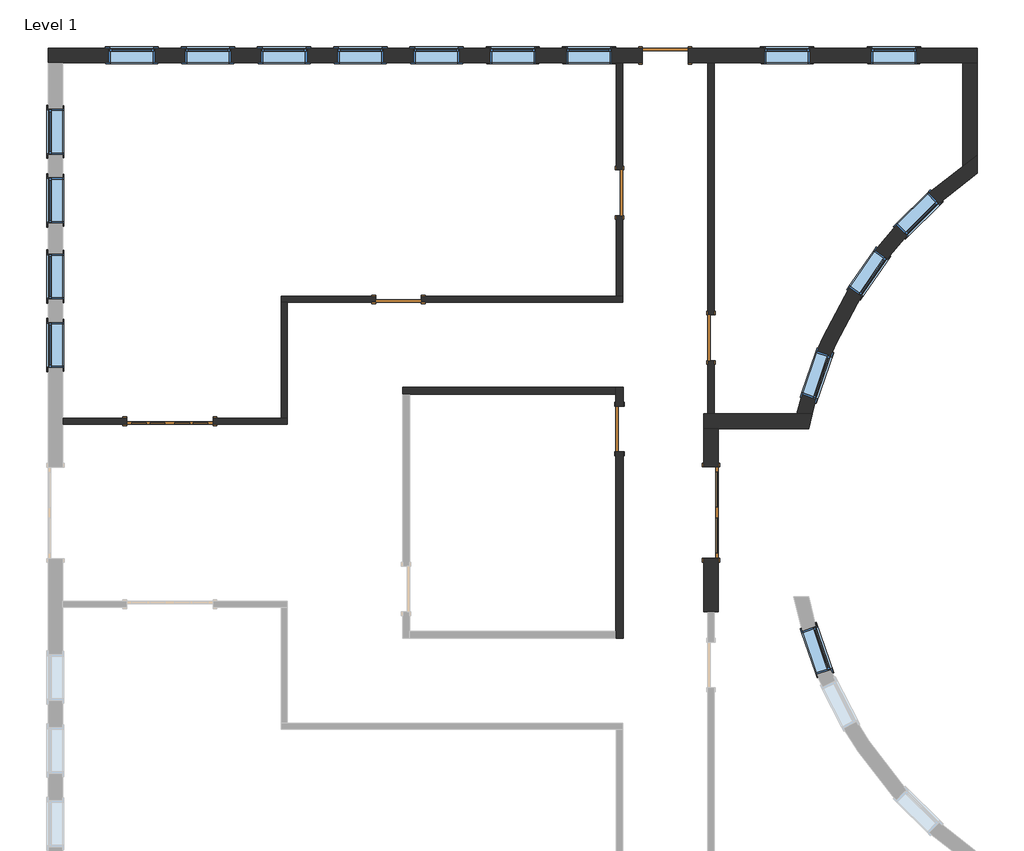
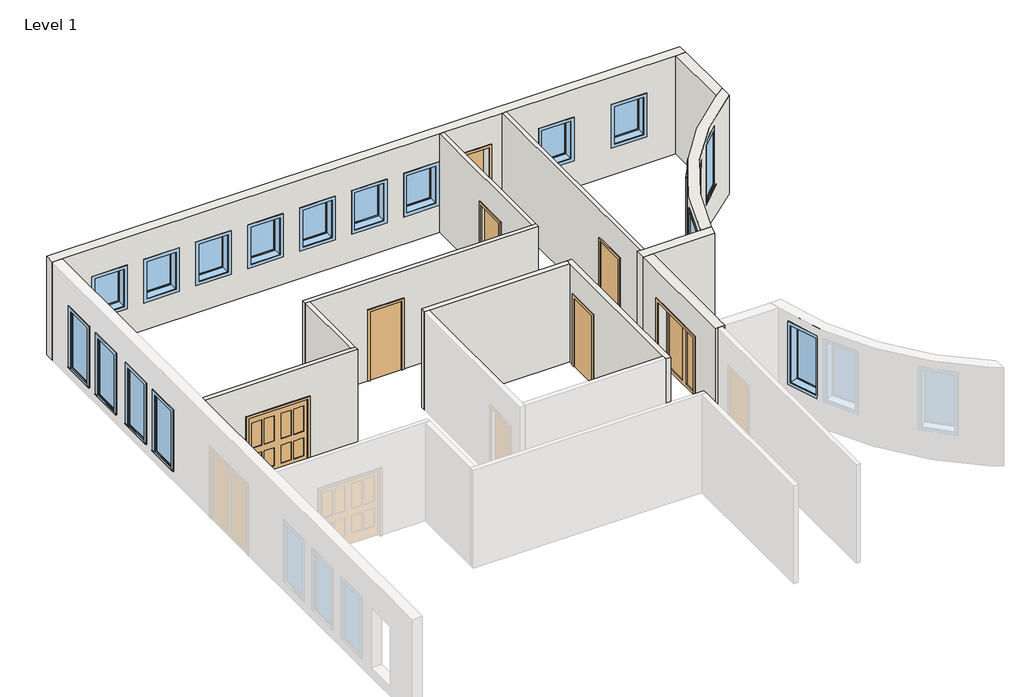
# One storey, part 2 of 2: 17 windows, 12 walls, 7 doors.
"""IFC4 building model written with IfcOpenShell, lengths in millimetres."""

from ifc_helpers import new_model, si_unit, point, frame, frame_2d, origin, origin_with_axes, place, context, project, spatial, polyline, circle_curve, trimmed, segment, composite_curve, outline, extrude, faceted_brep, transform, mapped, element, save
from ifc_brep_helpers import plane_surface, cylinder_surface, revolved_surface, advanced_brep
from components import door_e9d87526, door_c173eac2, door_617da642, door_88503111, door_3dff5d0e, fixed_6768491c, fixed_81e87f0c, fixed_94481ef7

model = new_model("IFC4")

# Units and contexts
model_context = context("Model", 3, world=origin())
ifc_project = project(units=[si_unit("LENGTHUNIT", "METRE", prefix="MILLI")], contexts=[model_context])

# Site, building, storey
site = spatial("IfcSite", under=ifc_project)
building = spatial("IfcBuilding", under=site)
storey = spatial("IfcBuildingStorey", under=building, Name="Level 1", Elevation=0.0)

# Doors
placement = place(None, origin())
door_shape = door_e9d87526(model_context)
element("IfcDoor", 1, ObjectType="Double-Glass 1 : 72\" x 84\"", at=placement, inside=storey, context=model_context, shape_type="MappedRepresentation", body=[
    mapped(door_shape, transform((2356.1311274, -430.8085073, 0.0), x_axis=(0.0, -1.0, 0.0), y_axis=(1.0, 0.0, 0.0), z_axis=(0.0, 0.0, 1.0))),
])
door_2_shape = door_c173eac2(model_context)
element("IfcDoor", 2, ObjectType="Double-Panel 2 : 68\" x 80\"", at=placement, inside=storey, context=model_context, shape_type="MappedRepresentation", body=[
    mapped(door_2_shape, transform((-8461.8876226, 1393.2289927, 0.0), x_axis=(-1.0, 0.0, 0.0), y_axis=(0.0, -1.0, 0.0), z_axis=(0.0, 0.0, 1.0))),
])
door_3_shape = door_617da642(model_context)
element("IfcDoor", 3, ObjectType="Sgl Flush : 36\" x 84\"", at=placement, inside=storey, context=model_context, shape_type="MappedRepresentation", body=[
    mapped(door_3_shape, transform((1444.1123774, 8708.4289927, 0.0), x_axis=(-1.0, 0.0, 0.0), y_axis=(0.0, -1.0, 0.0), z_axis=(0.0, 0.0, 1.0))),
])
door_4_shape = door_88503111(model_context)
element("IfcDoor", 4, ObjectType="Sgl Flush : 36\" x 84\"", at=placement, inside=storey, context=model_context, shape_type="MappedRepresentation", body=[
    mapped(door_4_shape, transform((-3889.8876226, 3831.6289927, 0.0), x_axis=(-1.0, 0.0, 0.0), y_axis=(0.0, -1.0, 0.0), z_axis=(0.0, 0.0, 1.0))),
])
element("IfcDoor", 5, ObjectType="Sgl Flush : 36\" x 84\"", at=placement, inside=storey, context=model_context, shape_type="MappedRepresentation", body=[
    mapped(door_4_shape, transform((529.7123774, 5965.2289927, 0.0), x_axis=(0.0, -1.0, 0.0), y_axis=(1.0, 0.0, 0.0), z_axis=(0.0, 0.0, 1.0))),
])
element("IfcDoor", 6, ObjectType="Sgl Flush : 36\" x 84\"", at=placement, inside=storey, context=model_context, shape_type="MappedRepresentation", body=[
    mapped(door_4_shape, transform((2358.5123774, 3064.8664927, 0.0), x_axis=(0.0, 1.0, 0.0), y_axis=(-1.0, 0.0, 0.0), z_axis=(0.0, 0.0, 1.0))),
])
door_5_shape = door_3dff5d0e(model_context)
element("IfcDoor", 7, ObjectType="Sgl Flush : 36\" x 84\"", at=placement, inside=storey, context=model_context, shape_type="MappedRepresentation", body=[
    mapped(door_5_shape, transform((529.7123774, 1240.8289927, 0.0), x_axis=(0.0, 1.0, 0.0), y_axis=(-1.0, 0.0, 0.0), z_axis=(0.0, 0.0, 1.0))),
])

# Walls
element("IfcWall", 8, ObjectType="Generic - 12\" Masonry", at=placement, inside=storey, context=model_context, shape_type="Brep", body=[
    faceted_brep([(-10895.5251226, 8560.7914927, 0.0), (-10600.2501226, 8560.7914927, 0.0), (467.7998774, 8560.7914927, 0.0), (591.6248774, 8560.7914927, 0.0), (986.9123774, 8560.7914927, 0.0), (986.9123774, 8560.7914927, 2133.6), (1901.3123774, 8560.7914927, 2133.6), (1901.3123774, 8560.7914927, 0.0), (2296.5998774, 8560.7914927, 0.0), (2420.4248774, 8560.7914927, 0.0), (7392.4748774, 8560.7914927, 0.0), (7687.7498774, 8560.7914927, 0.0), (7687.7498774, 8560.7914927, 3048.0), (7392.4748774, 8560.7914927, 3048.0), (2420.4248774, 8560.7914927, 3048.0), (2296.5998774, 8560.7914927, 3048.0), (591.6248774, 8560.7914927, 3048.0), (467.7998774, 8560.7914927, 3048.0), (-10600.2501226, 8560.7914927, 3048.0), (-10895.5251226, 8560.7914927, 3048.0), (-8766.6876226, 8560.7914927, 2133.6), (-8766.6876226, 8560.7914927, 914.4), (-9681.0876226, 8560.7914927, 914.4), (-9681.0876226, 8560.7914927, 2133.6), (-7242.6876226, 8560.7914927, 2133.6), (-7242.6876226, 8560.7914927, 914.4), (-8157.0876226, 8560.7914927, 914.4), (-8157.0876226, 8560.7914927, 2133.6), (-5718.6876226, 8560.7914927, 2133.6), (-5718.6876226, 8560.7914927, 914.4), (-6633.0876226, 8560.7914927, 914.4), (-6633.0876226, 8560.7914927, 2133.6), (-4194.6876226, 8560.7914927, 2133.6), (-4194.6876226, 8560.7914927, 914.4), (-5109.0876226, 8560.7914927, 914.4), (-5109.0876226, 8560.7914927, 2133.6), (-2670.6876226, 8560.7914927, 2133.6), (-2670.6876226, 8560.7914927, 914.4), (-3585.0876226, 8560.7914927, 914.4), (-3585.0876226, 8560.7914927, 2133.6), (-1146.6876226, 8560.7914927, 2133.6), (-1146.6876226, 8560.7914927, 914.4), (-2061.0876226, 8560.7914927, 914.4), (-2061.0876226, 8560.7914927, 2133.6), (377.3123774, 8560.7914927, 2133.6), (377.3123774, 8560.7914927, 914.4), (-537.0876226, 8560.7914927, 914.4), (-537.0876226, 8560.7914927, 2133.6), (4339.7123774, 8560.7914927, 2133.6), (4339.7123774, 8560.7914927, 914.4), (3425.3123774, 8560.7914927, 914.4), (3425.3123774, 8560.7914927, 2133.6), (6473.3123774, 8560.7914927, 2133.6), (6473.3123774, 8560.7914927, 914.4), (5558.9123774, 8560.7914927, 914.4), (5558.9123774, 8560.7914927, 2133.6), (986.9123774, 8856.0664927, 2133.6), (986.9123774, 8856.0664927, 0.0), (-10895.5251226, 8856.0664927, 0.0), (-10895.5251226, 8856.0664927, 3048.0), (7687.7498774, 8856.0664927, 3048.0), (7687.7498774, 8856.0664927, 0.0), (1901.3123774, 8856.0664927, 0.0), (1901.3123774, 8856.0664927, 2133.6), (-8766.6876226, 8856.0664927, 2133.6), (-9681.0876226, 8856.0664927, 2133.6), (-9681.0876226, 8856.0664927, 914.4), (-8766.6876226, 8856.0664927, 914.4), (-7242.6876226, 8856.0664927, 2133.6), (-8157.0876226, 8856.0664927, 2133.6), (-8157.0876226, 8856.0664927, 914.4), (-7242.6876226, 8856.0664927, 914.4), (-5718.6876226, 8856.0664927, 2133.6), (-6633.0876226, 8856.0664927, 2133.6), (-6633.0876226, 8856.0664927, 914.4), (-5718.6876226, 8856.0664927, 914.4), (-4194.6876226, 8856.0664927, 2133.6), (-5109.0876226, 8856.0664927, 2133.6), (-5109.0876226, 8856.0664927, 914.4), (-4194.6876226, 8856.0664927, 914.4), (-2670.6876226, 8856.0664927, 2133.6), (-3585.0876226, 8856.0664927, 2133.6), (-3585.0876226, 8856.0664927, 914.4), (-2670.6876226, 8856.0664927, 914.4), (-1146.6876226, 8856.0664927, 2133.6), (-2061.0876226, 8856.0664927, 2133.6), (-2061.0876226, 8856.0664927, 914.4), (-1146.6876226, 8856.0664927, 914.4), (377.3123774, 8856.0664927, 2133.6), (-537.0876226, 8856.0664927, 2133.6), (-537.0876226, 8856.0664927, 914.4), (377.3123774, 8856.0664927, 914.4), (4339.7123774, 8856.0664927, 2133.6), (3425.3123774, 8856.0664927, 2133.6), (3425.3123774, 8856.0664927, 914.4), (4339.7123774, 8856.0664927, 914.4), (6473.3123774, 8856.0664927, 2133.6), (5558.9123774, 8856.0664927, 2133.6), (5558.9123774, 8856.0664927, 914.4), (6473.3123774, 8856.0664927, 914.4)], [[[0, 1, 2, 3, 4, 5, 6, 7, 8, 9, 10, 11, 12, 13, 14, 15, 16, 17, 18, 19], [20, 21, 22, 23], [24, 25, 26, 27], [28, 29, 30, 31], [32, 33, 34, 35], [36, 37, 38, 39], [40, 41, 42, 43], [44, 45, 46, 47], [48, 49, 50, 51], [52, 53, 54, 55]], [[56, 57, 58, 59, 60, 61, 62, 63], [64, 65, 66, 67], [68, 69, 70, 71], [72, 73, 74, 75], [76, 77, 78, 79], [80, 81, 82, 83], [84, 85, 86, 87], [88, 89, 90, 91], [92, 93, 94, 95], [96, 97, 98, 99]], [[62, 61, 11, 10, 9, 8, 7]], [[58, 57, 4, 3, 2, 1, 0]], [[19, 18, 17, 16, 15, 14, 13, 12, 60, 59]], [[0, 19, 59, 58]], [[5, 4, 57, 56]], [[6, 5, 56, 63]], [[7, 6, 63, 62]], [[12, 11, 61, 60]], [[21, 20, 64, 67]], [[22, 21, 67, 66]], [[23, 22, 66, 65]], [[20, 23, 65, 64]], [[25, 24, 68, 71]], [[26, 25, 71, 70]], [[27, 26, 70, 69]], [[24, 27, 69, 68]], [[29, 28, 72, 75]], [[30, 29, 75, 74]], [[31, 30, 74, 73]], [[28, 31, 73, 72]], [[33, 32, 76, 79]], [[34, 33, 79, 78]], [[35, 34, 78, 77]], [[32, 35, 77, 76]], [[37, 36, 80, 83]], [[38, 37, 83, 82]], [[39, 38, 82, 81]], [[36, 39, 81, 80]], [[41, 40, 84, 87]], [[42, 41, 87, 86]], [[43, 42, 86, 85]], [[40, 43, 85, 84]], [[45, 44, 88, 91]], [[46, 45, 91, 90]], [[47, 46, 90, 89]], [[44, 47, 89, 88]], [[49, 48, 92, 95]], [[50, 49, 95, 94]], [[51, 50, 94, 93]], [[48, 51, 93, 92]], [[53, 52, 96, 99]], [[54, 53, 99, 98]], [[55, 54, 98, 97]], [[52, 55, 97, 96]]]),
])
element("IfcWall", 9, ObjectType="Generic - 12\" Masonry", at=placement, inside=storey, context=model_context, shape_type="AdvancedBrep", body=[
    advanced_brep(
    [(4380.4809086, 1540.8664927, 3048.0), (7687.7498774, 6354.9281942, 3048.0), (7687.7498774, 6711.7450927, 3048.0), (7392.479694, 6507.4464195, 3048.0), (4076.7189167, 1540.8664927, 3048.0), (4380.4809086, 1540.8664927, 0.0), (4076.7189167, 1540.8664927, 0.0), (7392.479694, 6507.4464195, 0.0), (7687.7498774, 6711.7450927, 0.0), (7687.7498774, 6354.9281942, 0.0), (6922.7409562, 5752.5897109, 2743.2), (6922.7409562, 5752.5897109, 914.4), (6273.4213207, 5108.7641359, 914.4), (6273.4213207, 5108.7641359, 2743.2), (5887.0014844, 4648.1395778, 2743.2), (5887.0014844, 4648.1395778, 914.4), (5365.8826583, 3896.7658165, 914.4), (5365.8826583, 3896.7658165, 2743.2), (4758.4259955, 2700.7397006, 2743.2), (4758.4259955, 2700.7397006, 914.4), (4459.0939332, 1836.7213695, 914.4), (4459.0939332, 1836.7213695, 2743.2), (6714.5317839, 5962.575628, 2743.2), (6065.2121485, 5318.750053, 2743.2), (6065.2121485, 5318.750053, 914.4), (6714.5317839, 5962.575628, 914.4), (5644.0119001, 4816.6661533, 2743.2), (5122.893074, 4065.2923921, 2743.2), (5122.893074, 4065.2923921, 914.4), (5644.0119001, 4816.6661533, 914.4), (4479.0078605, 2797.5418211, 2743.2), (4179.6757981, 1933.52349, 2743.2), (4179.6757981, 1933.52349, 914.4), (4479.0078605, 2797.5418211, 914.4)],
    [
        (0, 1, circle_curve(frame((12414.6932373, -435.5710073, 3048.0), z_axis=(0.0, 0.0, -1.0), x_axis=(1.0, 0.0, 0.0)), 8273.7460037)),
        (1, 2),
        (2, 3, circle_curve(frame((12414.6932373, -435.5710073, 3048.0), z_axis=(0.0, 0.0, 1.0), x_axis=(1.0, 0.0, 0.0)), 8569.0210037)),
        (3, 4, circle_curve(frame((12414.6932373, -435.5710073, 3048.0), z_axis=(0.0, 0.0, 1.0), x_axis=(1.0, 0.0, 0.0)), 8569.0209396)),
        (4, 0),
        (5, 6),
        (6, 7, circle_curve(frame((12414.6932373, -435.5710073, 0.0), z_axis=(0.0, 0.0, -1.0), x_axis=(1.0, 0.0, 0.0)), 8569.0210037)),
        (7, 8, circle_curve(frame((12414.6932373, -435.5710073, 0.0), z_axis=(0.0, 0.0, -1.0), x_axis=(1.0, 0.0, 0.0)), 8569.0209396)),
        (8, 9),
        (9, 5, circle_curve(frame((12414.6932373, -435.5710073, 0.0), z_axis=(0.0, 0.0, 1.0), x_axis=(1.0, 0.0, 0.0)), 8273.7460037)),
        (0, 5),
        (9, 1),
        (10, 11),
        (11, 12, circle_curve(frame((12414.6932373, -435.5710073, 914.4), z_axis=(0.0, 0.0, 1.0), x_axis=(1.0, 0.0, 0.0)), 8273.7460037)),
        (12, 13),
        (13, 10, circle_curve(frame((12414.6932373, -435.5710073, 2743.2), z_axis=(0.0, 0.0, -1.0), x_axis=(1.0, 0.0, 0.0)), 8273.7460037)),
        (14, 15),
        (15, 16, circle_curve(frame((12414.6932373, -435.5710073, 914.4), z_axis=(0.0, 0.0, 1.0), x_axis=(1.0, 0.0, 0.0)), 8273.7460037)),
        (16, 17),
        (17, 14, circle_curve(frame((12414.6932373, -435.5710073, 2743.2), z_axis=(0.0, 0.0, -1.0), x_axis=(1.0, 0.0, 0.0)), 8273.7460037)),
        (18, 19),
        (19, 20, circle_curve(frame((12414.6932373, -435.5710073, 914.4), z_axis=(0.0, 0.0, 1.0), x_axis=(1.0, 0.0, 0.0)), 8273.7460037)),
        (20, 21),
        (21, 18, circle_curve(frame((12414.6932373, -435.5710073, 2743.2), z_axis=(0.0, 0.0, -1.0), x_axis=(1.0, 0.0, 0.0)), 8273.7460037)),
        (2, 8),
        (6, 4),
        (22, 23, circle_curve(frame((12414.6932373, -435.5710073, 2743.2), z_axis=(0.0, 0.0, 1.0), x_axis=(1.0, 0.0, 0.0)), 8569.0210037)),
        (23, 24),
        (24, 25, circle_curve(frame((12414.6932373, -435.5710073, 914.4), z_axis=(0.0, 0.0, -1.0), x_axis=(1.0, 0.0, 0.0)), 8569.0210037)),
        (25, 22),
        (26, 27, circle_curve(frame((12414.6932373, -435.5710073, 2743.2), z_axis=(0.0, 0.0, 1.0), x_axis=(1.0, 0.0, 0.0)), 8569.0210037)),
        (27, 28),
        (28, 29, circle_curve(frame((12414.6932373, -435.5710073, 914.4), z_axis=(0.0, 0.0, -1.0), x_axis=(1.0, 0.0, 0.0)), 8569.0210037)),
        (29, 26),
        (30, 31, circle_curve(frame((12414.6932373, -435.5710073, 2743.2), z_axis=(0.0, 0.0, 1.0), x_axis=(1.0, 0.0, 0.0)), 8569.0210037)),
        (31, 32),
        (32, 33, circle_curve(frame((12414.6932373, -435.5710073, 914.4), z_axis=(0.0, 0.0, -1.0), x_axis=(1.0, 0.0, 0.0)), 8569.0210037)),
        (33, 30),
        (10, 22),
        (25, 11),
        (24, 12),
        (23, 13),
        (14, 26),
        (29, 15),
        (28, 16),
        (27, 17),
        (18, 30),
        (33, 19),
        (32, 20),
        (31, 21),
    ],
    [
        plane_surface(frame((20688.4392409, -435.5710073, 3048.0), z_axis=(0.0, 0.0, 1.0), x_axis=(0.0, -1.0, 0.0))),
        plane_surface(frame((20688.4392409, -435.5710073, 0.0), z_axis=(0.0, 0.0, -1.0), x_axis=(0.0, 1.0, 0.0))),
        revolved_surface(polyline([(20688.439241, -435.5710073, 0.0), (20688.439241, -435.5710073, 3048.0)]), (12414.6932373, -435.5710073, 0.0), (0.0, 0.0, -1.0)),
        cylinder_surface(frame((12414.6932373, -435.5710073, 0.0), z_axis=(0.0, 0.0, 1.0), x_axis=(1.0, 0.0, 0.0)), 8569.0210037),
        plane_surface(frame((7687.7498774, -9718.0016441, 0.0), z_axis=(1.0, 0.0, 0.0), x_axis=(0.0, 1.0, 0.0))),
        plane_surface(frame((4194.2801895, 1540.8664927, 0.0), z_axis=(0.0, -1.0, 0.0), x_axis=(-1.0, 0.0, 0.0))),
        plane_surface(frame((6922.7409562, 5752.5897109, 2743.2), z_axis=(-0.7101045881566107, -0.7040962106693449, 0.0), x_axis=(-0.7040962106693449, 0.7101045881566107, 0.0))),
        plane_surface(frame((6922.7409562, 5752.5897109, 914.4), z_axis=(0.0, 0.0, 1.0000000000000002), x_axis=(-0.7040962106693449, 0.7101045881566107, 0.0))),
        plane_surface(frame((6273.4213207, 5108.7641359, 914.4), z_axis=(0.710104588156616, 0.7040962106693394, 0.0), x_axis=(-0.7040962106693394, 0.710104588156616, 0.0))),
        plane_surface(frame((6273.4213207, 5108.7641359, 2743.2), z_axis=(0.0, 0.0, -1.0), x_axis=(-0.7040962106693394, 0.710104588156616, 0.0))),
        plane_surface(frame((5887.0014844, 4648.1395778, 2743.2), z_axis=(-0.5699024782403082, -0.8217123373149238, 0.0), x_axis=(-0.8217123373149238, 0.5699024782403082, 0.0))),
        plane_surface(frame((5887.0014844, 4648.1395778, 914.4), z_axis=(0.0, 0.0, 1.0), x_axis=(-0.8217123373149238, 0.5699024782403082, 0.0))),
        plane_surface(frame((5365.8826583, 3896.7658165, 914.4), z_axis=(0.5699024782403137, 0.82171233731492, 0.0), x_axis=(-0.82171233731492, 0.5699024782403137, 0.0))),
        plane_surface(frame((5365.8826583, 3896.7658165, 2743.2), z_axis=(0.0, 0.0, -1.0), x_axis=(-0.82171233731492, 0.5699024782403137, 0.0))),
        plane_surface(frame((4758.4259955, 2700.7397006, 2743.2), z_axis=(-0.3273535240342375, -0.9449019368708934, 0.0), x_axis=(-0.9449019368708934, 0.3273535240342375, 0.0))),
        plane_surface(frame((4758.4259955, 2700.7397006, 914.4), z_axis=(0.0, 0.0, 1.0), x_axis=(-0.9449019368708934, 0.3273535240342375, 0.0))),
        plane_surface(frame((4459.0939332, 1836.7213695, 914.4), z_axis=(0.3273535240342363, 0.944901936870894, 0.0), x_axis=(-0.944901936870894, 0.3273535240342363, 0.0))),
        plane_surface(frame((4459.0939332, 1836.7213695, 2743.2), z_axis=(0.0, 0.0, -1.0000000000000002), x_axis=(-0.944901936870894, 0.3273535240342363, 0.0))),
    ],
    [
        (0, [[1, 2, 3, 4, 5]]),
        (1, [[6, 7, 8, 9, 10]]),
        (2, [[-1, 11, -10, 12], [13, 14, 15, 16], [17, 18, 19, 20], [21, 22, 23, 24]]),
        (3, [[-4, -3, 25, -8, -7, 26], [27, 28, 29, 30], [31, 32, 33, 34], [35, 36, 37, 38]]),
        (4, [[-2, -12, -9, -25]]),
        (5, [[-5, -26, -6, -11]]),
        (6, [[-13, 39, -30, 40]]),
        (7, [[-14, -40, -29, 41]]),
        (8, [[-15, -41, -28, 42]]),
        (9, [[-16, -42, -27, -39]]),
        (10, [[-17, 43, -34, 44]]),
        (11, [[-18, -44, -33, 45]]),
        (12, [[-19, -45, -32, 46]]),
        (13, [[-20, -46, -31, -43]]),
        (14, [[-21, 47, -38, 48]]),
        (15, [[-22, -48, -37, 49]]),
        (16, [[-23, -49, -36, 50]]),
        (17, [[-24, -50, -35, -47]]),
    ],
),
])
element("IfcWall", 10, ObjectType="Generic - 12\" Masonry", at=placement, inside=storey, context=model_context, shape_type="SweptSolid", body=[
    extrude(outline(composite_curve([segment(polyline([(7687.7498774, 8560.7914927), (7687.7498774, 6711.7450927)]), True, "CONTINUOUS"), segment(trimmed(circle_curve(frame_2d((12414.6932373, -435.5710073)), 8569.0210037), [point((7687.7498774, 6711.7450927))], [point((7392.4748774, 6507.4430145))], True, "CARTESIAN"), True, "CONTINUOUS"), segment(polyline([(7392.4748774, 6507.4430145), (7392.4748774, 8560.7914927), (7687.7498774, 8560.7914927)]), True, "CONTINUOUS")], self_intersect=False)), origin_with_axes(), (0.0, 0.0, 1.0), 3048.0),
])
element("IfcWall", 11, ObjectType="Generic - 12\" Masonry", at=placement, inside=storey, context=model_context, shape_type="Brep", body=[
    faceted_brep([(2506.1498774, -2412.0085073, 3048.0), (2506.1498774, -2116.7335073, 3048.0), (2506.1498774, 1245.5914927, 3048.0), (2210.8748774, 1245.5914927, 3048.0), (2210.8748774, -2412.0085073, 3048.0), (2296.5998774, -2412.0085073, 3048.0), (2420.4248774, -2412.0085073, 3048.0), (2506.1498774, -2412.0085073, 0.0), (2506.1498774, -2116.7335073, 0.0), (2506.1498774, -1345.2085073, 0.0), (2506.1498774, -1345.2085073, 2133.6), (2506.1498774, 483.5914927, 2133.6), (2506.1498774, 483.5914927, 0.0), (2506.1498774, 1245.5914927, 0.0), (2210.8748774, -1345.2085073, 2133.6), (2210.8748774, -1345.2085073, 0.0), (2210.8748774, -2412.0085073, 0.0), (2210.8748774, 1245.5914927, 0.0), (2210.8748774, 483.5914927, 0.0), (2210.8748774, 483.5914927, 2133.6), (2420.4248774, -2412.0085073, 0.0), (2296.5998774, -2412.0085073, 0.0)], [[[0, 1, 2, 3, 4, 5, 6]], [[7, 8, 9, 10, 11, 12, 13, 2, 1, 0]], [[14, 15, 16, 4, 3, 17, 18, 19]], [[16, 15, 9, 8, 7, 20, 21]], [[18, 17, 13, 12]], [[2, 13, 17, 3]], [[7, 0, 6, 5, 4, 16, 21, 20]], [[10, 9, 15, 14]], [[11, 10, 14, 19]], [[12, 11, 19, 18]]]),
])
element("IfcWall", 12, ObjectType="Generic - 12\" Masonry", at=placement, inside=storey, context=model_context, shape_type="AdvancedBrep", body=[
    advanced_brep(
    [(4380.4809086, 1540.8664927, 0.0), (4076.7189167, 1540.8664927, 0.0), (2420.4248774, 1540.8664927, 0.0), (2296.5998774, 1540.8664927, 0.0), (2210.8748774, 1540.8664927, 0.0), (2210.8748774, 1540.8664927, 3048.0), (2296.5998774, 1540.8664927, 3048.0), (2420.4248774, 1540.8664927, 3048.0), (4076.7189167, 1540.8664927, 3048.0), (4380.4809086, 1540.8664927, 3048.0), (4313.5472948, 1245.5914927, 0.0), (4313.5472948, 1245.5914927, 3048.0), (2506.1498774, 1245.5914927, 3048.0), (2210.8748774, 1245.5914927, 3048.0), (2210.8748774, 1245.5914927, 0.0), (2506.1498774, 1245.5914927, 0.0)],
    [
        (0, 1),
        (1, 2),
        (2, 3),
        (3, 4),
        (4, 5),
        (5, 6),
        (6, 7),
        (7, 8),
        (8, 9),
        (9, 0),
        (10, 11),
        (11, 12),
        (12, 13),
        (13, 14),
        (14, 15),
        (15, 10),
        (0, 10, circle_curve(frame((12414.6932373, -435.5710073, 0.0), z_axis=(0.0, 0.0, 1.0), x_axis=(1.0, 0.0, 0.0)), 8273.7460037)),
        (14, 4),
        (5, 13),
        (11, 9, circle_curve(frame((12414.6932373, -435.5710073, 3048.0), z_axis=(0.0, 0.0, -1.0), x_axis=(1.0, 0.0, 0.0)), 8273.7460037)),
    ],
    [
        plane_surface(frame((4194.2801895, 1540.8664927, 0.0), z_axis=(0.0, 1.0, 0.0), x_axis=(-1.0, 0.0, 0.0))),
        plane_surface(frame((4194.2801895, 1245.5914927, 0.0), z_axis=(0.0, -1.0, 0.0), x_axis=(1.0, 0.0, 0.0))),
        plane_surface(frame((4194.2801895, 1540.8664927, 0.0), z_axis=(0.0, 0.0, -1.0), x_axis=(0.0, -1.0, 0.0))),
        plane_surface(frame((2358.5123774, 1540.8664927, 3048.0), z_axis=(0.0, 0.0, 1.0), x_axis=(0.0, -1.0, 0.0))),
        revolved_surface(polyline([(20688.439241, -435.5710073, 0.0), (20688.439241, -435.5710073, 3048.0)]), (12414.6932373, -435.5710073, 0.0), (0.0, 0.0, -1.0)),
        plane_surface(frame((2210.8748774, -2873.9710073, 0.0), z_axis=(-1.0, 0.0, 0.0), x_axis=(0.0, -1.0, 0.0))),
    ],
    [
        (0, [[1, 2, 3, 4, 5, 6, 7, 8, 9, 10]]),
        (1, [[11, 12, 13, 14, 15, 16]]),
        (2, [[-4, -3, -2, -1, 17, -16, -15, 18]]),
        (3, [[-9, -8, -7, -6, 19, -13, -12, 20]]),
        (4, [[-10, -20, -11, -17]]),
        (5, [[-5, -18, -14, -19]]),
    ],
),
])
element("IfcWall", 13, ObjectType="Generic - 6\" Masonry", at=placement, inside=storey, context=model_context, shape_type="Brep", body=[
    faceted_brep([(-3808.9251226, 1931.3914927, 0.0), (-3666.0501226, 1931.3914927, 0.0), (458.2748774, 1931.3914927, 0.0), (458.2748774, 1931.3914927, 3048.0), (-3666.0501226, 1931.3914927, 3048.0), (-3808.9251226, 1931.3914927, 3048.0), (-3808.9251226, 2074.2664927, 0.0), (-3808.9251226, 2074.2664927, 3048.0), (458.2748774, 2074.2664927, 3048.0), (458.2748774, 2074.2664927, 0.0)], [[[0, 1, 2, 3, 4, 5]], [[6, 7, 8, 9]], [[2, 1, 0, 6, 9]], [[5, 4, 3, 8, 7]], [[0, 5, 7, 6]], [[3, 2, 9, 8]]]),
])
element("IfcWall", 14, ObjectType="Generic - 6\" Masonry", at=placement, inside=storey, context=model_context, shape_type="Brep", body=[
    faceted_brep([(458.2748774, 2074.2664927, 0.0), (458.2748774, 1931.3914927, 0.0), (458.2748774, 1698.0289927, 0.0), (458.2748774, 1698.0289927, 2133.6), (458.2748774, 783.6289927, 2133.6), (458.2748774, 783.6289927, 0.0), (458.2748774, -2802.5335073, 0.0), (458.2748774, -2945.4085073, 0.0), (458.2748774, -2945.4085073, 3048.0), (458.2748774, -2802.5335073, 3048.0), (458.2748774, 1931.3914927, 3048.0), (458.2748774, 2074.2664927, 3048.0), (601.1498774, 1698.0289927, 2133.6), (601.1498774, 1698.0289927, 0.0), (601.1498774, 2074.2664927, 0.0), (601.1498774, 2074.2664927, 3048.0), (601.1498774, -2945.4085073, 3048.0), (601.1498774, -2945.4085073, 0.0), (601.1498774, 783.6289927, 0.0), (601.1498774, 783.6289927, 2133.6)], [[[0, 1, 2, 3, 4, 5, 6, 7, 8, 9, 10, 11]], [[12, 13, 14, 15, 16, 17, 18, 19]], [[14, 13, 2, 1, 0]], [[18, 17, 7, 6, 5]], [[11, 10, 9, 8, 16, 15]], [[0, 11, 15, 14]], [[8, 7, 17, 16]], [[3, 2, 13, 12]], [[4, 3, 12, 19]], [[5, 4, 19, 18]]]),
])
element("IfcWall", 15, ObjectType="Interior - 4 7/8\" Partition (1-hr)", at=placement, inside=storey, context=model_context, shape_type="Brep", body=[
    faceted_brep([(-10600.2501226, 1331.3164927, 3048.0), (-6113.9751226, 1331.3164927, 3048.0), (-6113.9751226, 1455.1414927, 3048.0), (-6237.8001226, 1455.1414927, 3048.0), (-10600.2501226, 1455.1414927, 3048.0), (-10600.2501226, 1331.3164927, 0.0), (-9325.4876226, 1331.3164927, 0.0), (-9325.4876226, 1331.3164927, 2032.0), (-7598.2876226, 1331.3164927, 2032.0), (-7598.2876226, 1331.3164927, 0.0), (-6113.9751226, 1331.3164927, 0.0), (-6113.9751226, 1455.1414927, 0.0), (-6237.8001226, 1455.1414927, 0.0), (-7598.2876226, 1455.1414927, 0.0), (-7598.2876226, 1455.1414927, 2032.0), (-9325.4876226, 1455.1414927, 2032.0), (-9325.4876226, 1455.1414927, 0.0), (-10600.2501226, 1455.1414927, 0.0)], [[[0, 1, 2, 3, 4]], [[1, 0, 5, 6, 7, 8, 9, 10]], [[4, 3, 2, 11, 12, 13, 14, 15, 16, 17]], [[5, 17, 16, 6]], [[11, 10, 9, 13, 12]], [[5, 0, 4, 17]], [[1, 10, 11, 2]], [[15, 7, 6, 16]], [[7, 15, 14, 8]], [[8, 14, 13, 9]]]),
])
element("IfcWall", 16, ObjectType="Interior - 4 7/8\" Partition (1-hr)", at=placement, inside=storey, context=model_context, shape_type="Brep", body=[
    faceted_brep([(-6237.8001226, 3769.7164927, 3048.0), (-6113.9751226, 3769.7164927, 3048.0), (591.6248774, 3769.7164927, 3048.0), (591.6248774, 3893.5414927, 3048.0), (467.7998774, 3893.5414927, 3048.0), (-6237.8001226, 3893.5414927, 3048.0), (-6237.8001226, 3769.7164927, 0.0), (-6113.9751226, 3769.7164927, 0.0), (-4347.0876226, 3769.7164927, 0.0), (-4347.0876226, 3769.7164927, 2133.6), (-3432.6876226, 3769.7164927, 2133.6), (-3432.6876226, 3769.7164927, 0.0), (591.6248774, 3769.7164927, 0.0), (-4347.0876226, 3893.5414927, 2133.6), (-4347.0876226, 3893.5414927, 0.0), (-6237.8001226, 3893.5414927, 0.0), (591.6248774, 3893.5414927, 0.0), (467.7998774, 3893.5414927, 0.0), (-3432.6876226, 3893.5414927, 0.0), (-3432.6876226, 3893.5414927, 2133.6)], [[[0, 1, 2, 3, 4, 5]], [[6, 7, 8, 9, 10, 11, 12, 2, 1, 0]], [[13, 14, 15, 5, 4, 3, 16, 17, 18, 19]], [[15, 14, 8, 7, 6]], [[18, 17, 16, 12, 11]], [[2, 12, 16, 3]], [[6, 0, 5, 15]], [[9, 8, 14, 13]], [[10, 9, 13, 19]], [[11, 10, 19, 18]]]),
])
element("IfcWall", 17, ObjectType="Interior - 4 7/8\" Partition (1-hr)", at=placement, inside=storey, context=model_context, shape_type="SweptSolid", body=[
    extrude(outline(polyline([(5508.0289927, 2133.6), (5508.0289927, 0.0), (3893.5414927, 0.0), (3893.5414927, 3048.0), (8560.7914927, 3048.0), (8560.7914927, 0.0), (6422.4289927, 0.0), (6422.4289927, 2133.6), (5508.0289927, 2133.6)])), frame((467.7998774, 0.0, 0.0), z_axis=(1.0, 0.0, 0.0), x_axis=(0.0, 1.0, 0.0)), (0.0, 0.0, 1.0), 123.825),
])
element("IfcWall", 18, ObjectType="Interior - 4 7/8\" Partition (1-hr)", at=placement, inside=storey, context=model_context, shape_type="SweptSolid", body=[
    extrude(outline(polyline([(-6237.8001226, 1455.1414927), (-6237.8001226, 3769.7164927), (-6113.9751226, 3769.7164927), (-6113.9751226, 1455.1414927), (-6237.8001226, 1455.1414927)])), origin_with_axes(), (0.0, 0.0, 1.0), 3048.0),
])
element("IfcWall", 19, ObjectType="Interior - 4 7/8\" Partition (1-hr)", at=placement, inside=storey, context=model_context, shape_type="SweptSolid", body=[
    extrude(outline(polyline([(8560.7914927, 0.0), (3522.0664927, 0.0), (3522.0664927, 2133.6), (2607.6664927, 2133.6), (2607.6664927, 0.0), (1540.8664927, 0.0), (1540.8664927, 3048.0), (8560.7914927, 3048.0), (8560.7914927, 0.0)])), frame((2296.5998774, 0.0, 0.0), z_axis=(1.0, 0.0, 0.0), x_axis=(0.0, 1.0, 0.0)), (0.0, 0.0, 1.0), 123.825),
])

# Windows
fixed_shape = fixed_6768491c(model_context)
element("IfcWindow", 20, ObjectType="Fixed : 36\"w x 72\"h", at=placement, inside=storey, context=model_context, shape_type="MappedRepresentation", body=[
    mapped(fixed_shape, transform((4481.7291739, -3224.2029694, 609.6), x_axis=(0.32735352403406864, -0.9449019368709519, 0.0), y_axis=(0.9449019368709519, 0.32735352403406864, 0.0), z_axis=(0.0, 0.0, 1.0))),
])
fixed_2_shape = fixed_81e87f0c(model_context)
element("IfcWindow", 21, ObjectType="Fixed : 36\"w x 72\"h", at=placement, inside=storey, context=model_context, shape_type="MappedRepresentation", body=[
    mapped(fixed_2_shape, transform((-10747.8876226, 2879.1289927, 0.0), x_axis=(0.0, -1.0, 0.0), y_axis=(1.0, 0.0, 0.0), z_axis=(0.0, 0.0, 1.0))),
])
element("IfcWindow", 22, ObjectType="Fixed : 36\"w x 72\"h", at=placement, inside=storey, context=model_context, shape_type="MappedRepresentation", body=[
    mapped(fixed_2_shape, transform((-10747.8876226, 5774.7289927, 0.0), x_axis=(0.0, -1.0, 0.0), y_axis=(1.0, 0.0, 0.0), z_axis=(0.0, 0.0, 1.0))),
])
element("IfcWindow", 23, ObjectType="Fixed : 36\"w x 72\"h", at=placement, inside=storey, context=model_context, shape_type="MappedRepresentation", body=[
    mapped(fixed_2_shape, transform((-10747.8876226, 4250.7289927, 0.0), x_axis=(0.0, -1.0, 0.0), y_axis=(1.0, 0.0, 0.0), z_axis=(0.0, 0.0, 1.0))),
])
element("IfcWindow", 24, ObjectType="Fixed : 36\"w x 72\"h", at=placement, inside=storey, context=model_context, shape_type="MappedRepresentation", body=[
    mapped(fixed_2_shape, transform((-10747.8876226, 7146.3289927, 0.0), x_axis=(0.0, -1.0, 0.0), y_axis=(1.0, 0.0, 0.0), z_axis=(0.0, 0.0, 1.0))),
])
element("IfcWindow", 25, ObjectType="Fixed : 36\"w x 72\"h", at=placement, inside=storey, context=model_context, shape_type="MappedRepresentation", body=[
    mapped(fixed_2_shape, transform((4481.7291739, 2353.0609547, 609.6), x_axis=(0.32735352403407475, 0.9449019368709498, 0.0), y_axis=(-0.9449019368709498, 0.32735352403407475, 0.0), z_axis=(0.0, 0.0, 1.0))),
])
element("IfcWindow", 26, ObjectType="Fixed : 36\"w x 72\"h", at=placement, inside=storey, context=model_context, shape_type="MappedRepresentation", body=[
    mapped(fixed_2_shape, transform((5526.8398006, 4387.8989143, 609.6), x_axis=(0.569902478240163, 0.8217123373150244, 0.0), y_axis=(-0.8217123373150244, 0.569902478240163, 0.0), z_axis=(0.0, 0.0, 1.0))),
])
element("IfcWindow", 27, ObjectType="Fixed : 36\"w x 72\"h", at=placement, inside=storey, context=model_context, shape_type="MappedRepresentation", body=[
    mapped(fixed_2_shape, transform((6521.185119, 5562.3410552, 609.6), x_axis=(0.7101045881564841, 0.7040962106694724, 0.0), y_axis=(-0.7040962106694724, 0.7101045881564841, 0.0), z_axis=(0.0, 0.0, 1.0))),
])
fixed_3_shape = fixed_94481ef7(model_context)
element("IfcWindow", 28, ObjectType="Fixed : 36\"w x 48\"h", at=placement, inside=storey, context=model_context, shape_type="MappedRepresentation", body=[
    mapped(fixed_3_shape, transform((-9185.7876226, 8708.4289927, 0.0), x_axis=(1.0, 0.0, 0.0), y_axis=(0.0, 1.0, 0.0), z_axis=(0.0, 0.0, 1.0))),
])
element("IfcWindow", 29, ObjectType="Fixed : 36\"w x 48\"h", at=placement, inside=storey, context=model_context, shape_type="MappedRepresentation", body=[
    mapped(fixed_3_shape, transform((-7661.7876226, 8708.4289927, 0.0), x_axis=(1.0, 0.0, 0.0), y_axis=(0.0, 1.0, 0.0), z_axis=(0.0, 0.0, 1.0))),
])
element("IfcWindow", 30, ObjectType="Fixed : 36\"w x 48\"h", at=placement, inside=storey, context=model_context, shape_type="MappedRepresentation", body=[
    mapped(fixed_3_shape, transform((-6137.7876226, 8708.4289927, 0.0), x_axis=(1.0, 0.0, 0.0), y_axis=(0.0, 1.0, 0.0), z_axis=(0.0, 0.0, 1.0))),
])
element("IfcWindow", 31, ObjectType="Fixed : 36\"w x 48\"h", at=placement, inside=storey, context=model_context, shape_type="MappedRepresentation", body=[
    mapped(fixed_3_shape, transform((-4613.7876226, 8708.4289927, 0.0), x_axis=(1.0, 0.0, 0.0), y_axis=(0.0, 1.0, 0.0), z_axis=(0.0, 0.0, 1.0))),
])
element("IfcWindow", 32, ObjectType="Fixed : 36\"w x 48\"h", at=placement, inside=storey, context=model_context, shape_type="MappedRepresentation", body=[
    mapped(fixed_3_shape, transform((-3089.7876226, 8708.4289927, 0.0), x_axis=(1.0, 0.0, 0.0), y_axis=(0.0, 1.0, 0.0), z_axis=(0.0, 0.0, 1.0))),
])
element("IfcWindow", 33, ObjectType="Fixed : 36\"w x 48\"h", at=placement, inside=storey, context=model_context, shape_type="MappedRepresentation", body=[
    mapped(fixed_3_shape, transform((-1565.7876226, 8708.4289927, 0.0), x_axis=(1.0, 0.0, 0.0), y_axis=(0.0, 1.0, 0.0), z_axis=(0.0, 0.0, 1.0))),
])
element("IfcWindow", 34, ObjectType="Fixed : 36\"w x 48\"h", at=placement, inside=storey, context=model_context, shape_type="MappedRepresentation", body=[
    mapped(fixed_3_shape, transform((-41.7876226, 8708.4289927, 0.0), x_axis=(1.0, 0.0, 0.0), y_axis=(0.0, 1.0, 0.0), z_axis=(0.0, 0.0, 1.0))),
])
element("IfcWindow", 35, ObjectType="Fixed : 36\"w x 48\"h", at=placement, inside=storey, context=model_context, shape_type="MappedRepresentation", body=[
    mapped(fixed_3_shape, transform((3920.6123774, 8708.4289927, 0.0), x_axis=(1.0, 0.0, 0.0), y_axis=(0.0, 1.0, 0.0), z_axis=(0.0, 0.0, 1.0))),
])
element("IfcWindow", 36, ObjectType="Fixed : 36\"w x 48\"h", at=placement, inside=storey, context=model_context, shape_type="MappedRepresentation", body=[
    mapped(fixed_3_shape, transform((6054.2123774, 8708.4289927, 0.0), x_axis=(1.0, 0.0, 0.0), y_axis=(0.0, 1.0, 0.0), z_axis=(0.0, 0.0, 1.0))),
])

save(model, "model.ifc")
